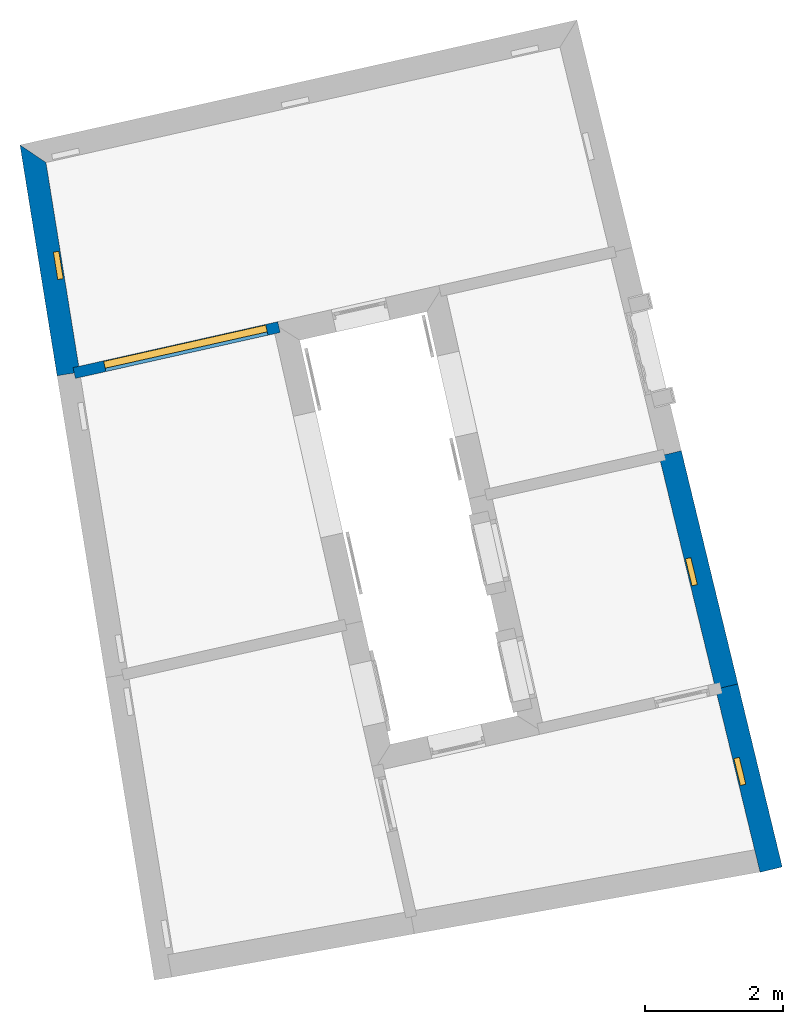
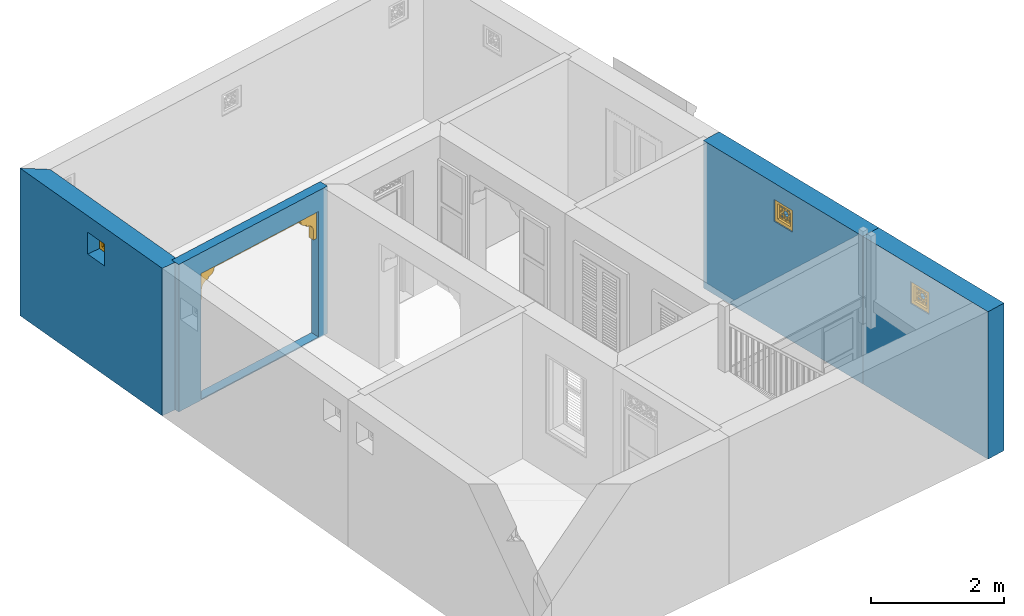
# One storey, part 10 of 13: 4 walls, 3 windows, 1 door, 4 openings.
"""IFC4 building model written with IfcOpenShell, lengths in metres."""

from ifc_helpers import new_model, si_unit, frame, origin, origin_with_axes, place, context, subcontext, project, spatial, polyline, outline, extrude, faceted_brep, source, transform, mapped, material, layer, layer_set, layer_usage, type_object, type_shapes, element, fill, save


model = new_model("IFC4")

# Units and contexts
model_context = context("Model", 3, world=origin_with_axes())
body_context = subcontext(model_context, "Body", "Model", "MODEL_VIEW")
ifc_project = project(units=[si_unit("PLANEANGLEUNIT", "RADIAN"), si_unit("MASSUNIT", "GRAM", prefix="KILO"), si_unit("FORCEUNIT", "NEWTON", prefix="KILO"), si_unit("LENGTHUNIT", "METRE"), si_unit("AREAUNIT", "SQUARE_METRE"), si_unit("VOLUMEUNIT", "CUBIC_METRE")], contexts=[model_context, model_context])

# Site, building, storey
site_placement = place(None, origin_with_axes())
site = spatial("IfcSite", under=ifc_project, at=site_placement, Name="Site plot-10", CompositionType="ELEMENT")
building_placement = place(None, origin_with_axes())
building = spatial("IfcBuilding", under=site, at=building_placement, Name="Building plot-10", CompositionType="ELEMENT")
storey_placement = place(None, origin_with_axes())
storey = spatial("IfcBuildingStorey", under=building, at=storey_placement, Name="plot-10 0", CompositionType="ELEMENT", Elevation=0.0)

# Wall, opening, window
ifc_material_1 = material(Name="Masonry")
ifc_layer_1 = layer(ifc_material_1, 0.33, ventilated=False)
ifc_layer_set_1 = layer_set([ifc_layer_1], Name="exterior_0.08_0.25")
ifc_layer_usage_1 = layer_usage(ifc_layer_set_1, "AXIS2", "POSITIVE", -0.25)
wall_type_1 = type_object("IfcWallType", Name="exterior_0.08_0.25", PredefinedType="SOLIDWALL", material=ifc_layer_set_1)
wall_1_placement = place(storey_placement, frame((-14.5759985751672, 9.56223174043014, 0.0), z_axis=(0.0, 0.0, 1.0), x_axis=(-0.235675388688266, 0.971831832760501, 0.0)))
wall_1 = element("IfcWall", 1, at=wall_1_placement, inside=storey, type_object=wall_type_1, material=ifc_layer_usage_1, Name="exterior", context=body_context, shape_type="SweptSolid", body=[
    extrude(outline(polyline([(-0.25, 0.0800000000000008), (-0.25, -0.249999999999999), (2.47135558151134, -0.25), (2.47135558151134, 0.0800000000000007), (-0.25, 0.0800000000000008)])), origin_with_axes(), (0.0, 0.0, 1.0), 2.7),
])
opening_1_placement = place(wall_1_placement, frame((1.03567779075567, 0.0, 2.0)))
opening_1 = element("IfcOpeningElement", 2, at=opening_1_placement, cuts=wall_1, Name="My Opening", ObjectType="Opening", context=body_context, shape_type="SweptSolid", body=[
    extrude(outline(polyline([(0.0, -0.27), (0.4, -0.270000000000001), (0.4, 1.1), (4.44089209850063e-16, 1.1), (0.0, -0.27)])), origin_with_axes(), (0.0, 0.0, 1.0), 0.4),
])
window_type = type_object("IfcWindowType", Name="barred_window", PartitioningType="DOUBLE_PANEL_HORIZONTAL", PredefinedType="NOTDEFINED")
shared_shape_1 = source(origin(), body_context, "Body", "Brep", [
    faceted_brep([(0.4, 0.25, 0.4), (0.0, 0.25, 0.4), (0.06, 0.25, 0.34), (0.34, 0.25, 0.34), (0.06, 0.33, 0.34), (0.34, 0.33, 0.34), (0.34, 0.25, 0.06), (0.4, 0.25, 0.0), (0.4, 0.33, 0.4), (0.0, 0.33, 0.4), (0.0, 0.25, 0.0), (0.06, 0.25, 0.06), (0.06, 0.33, 0.06), (0.34, 0.33, 0.06), (0.4, 0.33, 0.0), (0.0, 0.33, 0.0), (0.136152, 0.28, 0.08), (0.08, 0.28, 0.08), (0.06, 0.28, 0.06), (0.136152, 0.28, 0.06), (0.136152, 0.29, 0.08), (0.08, 0.29, 0.08), (0.06, 0.28, 0.136152), (0.08, 0.28, 0.136152), (0.06, 0.29, 0.06), (0.136152, 0.29, 0.06), (0.170294, 0.28, 0.08), (0.170294, 0.28, 0.06), (0.136152, 0.28, 0.136152), (0.136152, 0.29, 0.136152), (0.08, 0.29, 0.136152), (0.06, 0.29, 0.136152), (0.08, 0.28, 0.170294), (0.06, 0.28, 0.170294), (0.170294, 0.29, 0.06), (0.229706, 0.28, 0.08), (0.229706, 0.28, 0.06), (0.156152, 0.28, 0.094142), (0.156152, 0.28, 0.136152), (0.185858, 0.28, 0.123848), (0.185858, 0.29, 0.123848), (0.156152, 0.29, 0.094142), (0.156152, 0.29, 0.136152), (0.229706, 0.29, 0.08), (0.170294, 0.29, 0.08), (0.2, 0.28, 0.109706), (0.2, 0.29, 0.109706), (0.06, 0.29, 0.170294), (0.094142, 0.28, 0.156152), (0.08, 0.28, 0.229706), (0.06, 0.28, 0.229706), (0.229706, 0.29, 0.06), (0.263848, 0.28, 0.08), (0.263848, 0.28, 0.06), (0.156152, 0.28, 0.156152), (0.136152, 0.28, 0.156152), (0.173553, 0.28, 0.136152), (0.173553, 0.29, 0.136152), (0.156152, 0.29, 0.156152), (0.136152, 0.29, 0.156152), (0.094142, 0.29, 0.156152), (0.08, 0.29, 0.170294), (0.06, 0.29, 0.229706), (0.123848, 0.28, 0.185858), (0.109706, 0.28, 0.2), (0.08, 0.29, 0.229706), (0.08, 0.28, 0.263848), (0.06, 0.28, 0.263848), (0.263848, 0.29, 0.06), (0.2, 0.28, 0.13799), (0.214142, 0.28, 0.123848), (0.34, 0.28, 0.06), (0.32, 0.28, 0.08), (0.181838, 0.28, 0.156152), (0.136152, 0.28, 0.173553), (0.156152, 0.28, 0.181838), (0.181838, 0.29, 0.156152), (0.2, 0.29, 0.13799), (0.214142, 0.29, 0.123848), (0.136152, 0.29, 0.173553), (0.156152, 0.29, 0.181838), (0.243848, 0.28, 0.094142), (0.243848, 0.29, 0.094142), (0.263848, 0.28, 0.136152), (0.263848, 0.29, 0.08), (0.263848, 0.29, 0.136152), (0.32, 0.29, 0.08), (0.243848, 0.28, 0.136152), (0.243848, 0.29, 0.136152), (0.06, 0.29, 0.263848), (0.123848, 0.29, 0.185858), (0.13799, 0.28, 0.2), (0.123848, 0.28, 0.214142), (0.109706, 0.29, 0.2), (0.094142, 0.28, 0.243848), (0.08, 0.28, 0.32), (0.06, 0.28, 0.34), (0.34, 0.29, 0.06), (0.218162, 0.28, 0.156152), (0.226447, 0.28, 0.136152), (0.34, 0.28, 0.229706), (0.32, 0.28, 0.229706), (0.32, 0.28, 0.170294), (0.32, 0.28, 0.136152), (0.218162, 0.29, 0.156152), (0.226447, 0.29, 0.136152), (0.13799, 0.29, 0.2), (0.32, 0.29, 0.136152), (0.08, 0.29, 0.263848), (0.06, 0.29, 0.34), (0.136152, 0.28, 0.226447), (0.156152, 0.28, 0.218162), (0.094142, 0.29, 0.243848), (0.123848, 0.29, 0.214142), (0.136152, 0.28, 0.243848), (0.136152, 0.28, 0.263848), (0.08, 0.29, 0.32), (0.136152, 0.28, 0.34), (0.136152, 0.28, 0.32), (0.34, 0.29, 0.229706), (0.243848, 0.28, 0.156152), (0.263848, 0.28, 0.156152), (0.34, 0.28, 0.263848), (0.32, 0.28, 0.263848), (0.32, 0.29, 0.229706), (0.32, 0.29, 0.170294), (0.290294, 0.28, 0.2), (0.276152, 0.28, 0.185858), (0.305858, 0.28, 0.156152), (0.243848, 0.29, 0.156152), (0.263848, 0.29, 0.156152), (0.305858, 0.29, 0.156152), (0.276152, 0.29, 0.185858), (0.290294, 0.29, 0.2), (0.136152, 0.29, 0.34), (0.136152, 0.29, 0.226447), (0.156152, 0.29, 0.218162), (0.156152, 0.28, 0.243848), (0.136152, 0.29, 0.243848), (0.156152, 0.28, 0.263848), (0.136152, 0.29, 0.263848), (0.136152, 0.29, 0.32), (0.170294, 0.28, 0.32), (0.170294, 0.28, 0.34), (0.34, 0.29, 0.263848), (0.243848, 0.28, 0.181838), (0.263848, 0.28, 0.173553), (0.34, 0.28, 0.34), (0.32, 0.28, 0.32), (0.305858, 0.28, 0.243848), (0.276152, 0.28, 0.214142), (0.26201, 0.28, 0.2), (0.243848, 0.29, 0.181838), (0.263848, 0.29, 0.173553), (0.26201, 0.29, 0.2), (0.276152, 0.29, 0.214142), (0.32, 0.29, 0.263848), (0.170294, 0.29, 0.34), (0.156152, 0.29, 0.243848), (0.173553, 0.28, 0.263848), (0.181838, 0.28, 0.243848), (0.156152, 0.28, 0.305858), (0.229706, 0.28, 0.32), (0.229706, 0.28, 0.34), (0.34, 0.29, 0.34), (0.263848, 0.28, 0.34), (0.263848, 0.28, 0.32), (0.32, 0.29, 0.32), (0.263848, 0.28, 0.263848), (0.263848, 0.28, 0.243848), (0.305858, 0.29, 0.243848), (0.263848, 0.28, 0.226447), (0.243848, 0.28, 0.218162), (0.243848, 0.29, 0.218162), (0.263848, 0.29, 0.226447), (0.156152, 0.29, 0.263848), (0.170294, 0.29, 0.32), (0.229706, 0.29, 0.34), (0.181838, 0.29, 0.243848), (0.173553, 0.29, 0.263848), (0.185858, 0.28, 0.276152), (0.2, 0.28, 0.26201), (0.156152, 0.29, 0.305858), (0.229706, 0.29, 0.32), (0.263848, 0.29, 0.34), (0.263848, 0.29, 0.32), (0.263848, 0.29, 0.263848), (0.243848, 0.28, 0.243848), (0.243848, 0.28, 0.263848), (0.263848, 0.29, 0.243848), (0.243848, 0.29, 0.243848), (0.2, 0.29, 0.26201), (0.185858, 0.29, 0.276152), (0.214142, 0.28, 0.276152), (0.218162, 0.28, 0.243848), (0.226447, 0.28, 0.263848), (0.243848, 0.28, 0.305858), (0.2, 0.28, 0.290294), (0.2, 0.29, 0.290294), (0.243848, 0.29, 0.263848), (0.218162, 0.29, 0.243848), (0.214142, 0.29, 0.276152), (0.226447, 0.29, 0.263848), (0.243848, 0.29, 0.305858)], [[[0, 1, 2, 3]], [[3, 2, 4, 5]], [[3, 6, 7, 0]], [[1, 0, 8, 9]], [[1, 10, 11, 2]], [[2, 11, 12, 4]], [[9, 8, 5, 4]], [[6, 3, 5, 13]], [[6, 11, 10, 7]], [[0, 7, 14, 8]], [[10, 1, 9, 15]], [[11, 6, 13, 12]], [[4, 12, 15, 9]], [[8, 14, 13, 5]], [[7, 10, 15, 14]], [[12, 13, 14, 15]], [[16, 17, 18, 19]], [[17, 16, 20, 21]], [[22, 18, 17, 23]], [[19, 18, 24, 25]], [[26, 16, 19, 27]], [[16, 28, 29, 20]], [[21, 20, 25, 24]], [[23, 17, 21, 30]], [[18, 22, 31, 24]], [[23, 32, 33, 22]], [[27, 19, 25, 34]], [[35, 26, 27, 36]], [[28, 16, 37, 38]], [[37, 39, 40, 41]], [[38, 37, 41, 42]], [[20, 29, 42, 41]], [[26, 35, 43, 44]], [[45, 26, 44, 46]], [[20, 44, 34, 25]], [[28, 23, 30, 29]], [[24, 31, 30, 21]], [[22, 33, 47, 31]], [[48, 32, 23]], [[32, 49, 50, 33]], [[36, 27, 34, 51]], [[39, 37, 26, 45]], [[52, 35, 36, 53]], [[38, 54, 55, 28]], [[39, 56, 57, 40]], [[41, 40, 46, 44]], [[56, 38, 42, 57]], [[58, 42, 29, 59]], [[35, 45, 46, 43]], [[44, 43, 51, 34]], [[23, 28, 55, 48]], [[29, 30, 60, 59]], [[61, 30, 31, 47]], [[33, 50, 62, 47]], [[48, 63, 64, 32]], [[49, 32, 61, 65]], [[49, 66, 67, 50]], [[53, 36, 51, 68]], [[69, 39, 45, 70]], [[53, 71, 72, 52]], [[73, 54, 38, 56]], [[74, 55, 54, 75]], [[56, 39, 69, 73]], [[40, 57, 76, 77]], [[40, 77, 78, 46]], [[58, 76, 57, 42]], [[59, 79, 80, 58]], [[45, 35, 81, 70]], [[43, 46, 78, 82]], [[83, 52, 84, 85]], [[82, 84, 43]], [[52, 72, 86, 84]], [[43, 84, 68, 51]], [[44, 20, 41]], [[70, 81, 82, 78]], [[81, 87, 88, 82]], [[48, 55, 59, 60]], [[61, 60, 30]], [[65, 61, 47, 62]], [[50, 67, 89, 62]], [[63, 48, 60, 90]], [[63, 91, 92, 64]], [[32, 64, 93, 61]], [[64, 49, 65, 93]], [[94, 66, 49]], [[66, 95, 96, 67]], [[71, 53, 68, 97]], [[98, 69, 70, 99]], [[81, 52, 83, 87]], [[72, 71, 100]], [[100, 101, 102]], [[103, 72, 100]], [[100, 102, 103]], [[54, 73, 76, 58]], [[55, 74, 79, 59]], [[75, 54, 58, 80]], [[63, 74, 75, 91]], [[73, 69, 77, 76]], [[77, 104, 105, 78]], [[79, 90, 106, 80]], [[84, 82, 88, 85]], [[103, 83, 85, 107]], [[72, 103, 107, 86]], [[97, 68, 84, 86]], [[99, 70, 78, 105]], [[87, 99, 105, 88]], [[90, 60, 61, 93]], [[108, 65, 62, 89]], [[67, 96, 109, 89]], [[74, 63, 90, 79]], [[110, 92, 91, 111]], [[49, 64, 92, 94]], [[93, 65, 112, 113]], [[94, 114, 115, 66]], [[95, 66, 108, 116]], [[117, 96, 95, 118]], [[100, 71, 97, 119]], [[69, 98, 104, 77]], [[99, 87, 120, 98]], [[87, 83, 121, 120]], [[101, 100, 122, 123]], [[102, 101, 124, 125]], [[121, 83, 103]], [[103, 102, 126]], [[126, 127, 128]], [[128, 121, 103]], [[103, 126, 128]], [[91, 75, 80, 106]], [[88, 105, 104, 129]], [[106, 90, 93, 113]], [[85, 88, 129, 130]], [[107, 85, 130]], [[131, 132, 133]], [[107, 130, 131]], [[133, 125, 107]], [[107, 131, 133]], [[124, 119, 97]], [[97, 86, 107]], [[107, 125, 124]], [[97, 107, 124]], [[108, 112, 65]], [[116, 108, 89, 109]], [[96, 117, 134, 109]], [[92, 110, 135, 113]], [[111, 91, 106, 136]], [[114, 110, 111, 137]], [[94, 92, 113, 112]], [[114, 94, 112, 138]], [[114, 137, 139, 115]], [[66, 115, 140, 108]], [[118, 95, 116, 141]], [[118, 142, 143, 117]], [[122, 100, 119, 144]], [[98, 120, 129, 104]], [[145, 120, 121, 146]], [[122, 147, 148, 123]], [[123, 149, 101]], [[101, 126, 133, 124]], [[126, 102, 125, 133]], [[127, 126, 150, 151]], [[128, 127, 132, 131]], [[121, 128, 131, 130]], [[113, 135, 136, 106]], [[129, 152, 153, 130]], [[133, 132, 154, 155]], [[119, 124, 156, 144]], [[138, 112, 108, 140]], [[109, 134, 141, 116]], [[117, 143, 157, 134]], [[110, 114, 138, 135]], [[137, 111, 136, 158]], [[159, 139, 137, 160]], [[118, 115, 139, 161]], [[115, 118, 141, 140]], [[161, 142, 118]], [[162, 163, 143, 142]], [[147, 122, 144, 164]], [[120, 145, 152, 129]], [[146, 121, 130, 153]], [[146, 127, 151, 145]], [[147, 165, 166, 148]], [[123, 148, 167, 156]], [[149, 123, 168, 169]], [[149, 150, 126, 101]], [[155, 170, 124, 133]], [[151, 150, 171, 172]], [[127, 146, 153, 132]], [[135, 138, 158, 136]], [[132, 153, 152, 154]], [[155, 154, 173, 174]], [[170, 156, 124]], [[164, 144, 156, 167]], [[158, 138, 140, 175]], [[176, 141, 134, 157]], [[143, 163, 177, 157]], [[160, 137, 158, 178]], [[139, 159, 179, 175]], [[180, 159, 160, 181]], [[161, 139, 175, 182]], [[140, 141, 182, 175]], [[166, 165, 163, 162]], [[162, 142, 176, 183]], [[165, 147, 164, 184]], [[145, 151, 154, 152]], [[148, 166, 185, 167]], [[156, 186, 168, 123]], [[187, 169, 168, 188]], [[149, 169, 189, 170]], [[150, 149, 170, 155]], [[171, 150, 155, 174]], [[171, 169, 187, 172]], [[151, 172, 173, 154]], [[189, 174, 173, 190]], [[156, 170, 189, 186]], [[184, 164, 167, 185]], [[175, 179, 178, 158]], [[176, 182, 141]], [[177, 183, 176, 157]], [[163, 165, 184, 177]], [[181, 160, 178, 191]], [[159, 180, 192, 179]], [[180, 161, 182, 192]], [[193, 181, 194, 195]], [[196, 162, 197, 193]], [[180, 197, 142, 161]], [[197, 180, 181, 193]], [[142, 197, 198, 176]], [[162, 196, 166]], [[35, 52, 81]], [[197, 162, 183, 198]], [[185, 166, 168, 186]], [[196, 188, 168, 166]], [[187, 188, 195, 194]], [[169, 171, 174, 189]], [[172, 187, 190, 173]], [[189, 190, 199, 186]], [[184, 185, 183, 177]], [[179, 192, 191, 178]], [[176, 198, 192, 182]], [[194, 181, 191, 200]], [[191, 192, 198, 201]], [[26, 37, 16]], [[193, 195, 202, 201]], [[196, 193, 201, 203]], [[191, 201, 202, 200]], [[183, 203, 201, 198]], [[188, 196, 203, 199]], [[203, 183, 185]], [[199, 203, 185, 186]], [[195, 188, 199, 202]], [[187, 194, 200, 190]], [[199, 190, 200, 202]]]),
])
type_shapes(window_type, [shared_shape_1])
window_1_placement = place(storey_placement, frame((-14.557687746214, 10.6323687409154, 2.0), z_axis=(0.0, 0.0, 1.0), x_axis=(-0.0942701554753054, 0.388732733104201, 0.0)))
window_1 = element("IfcWindow", 3, at=window_1_placement, inside=storey, type_object=window_type, Name="circulation street window", OverallHeight=0.4, OverallWidth=0.4, context=body_context, shape_type="MappedRepresentation", body=[
    mapped(shared_shape_1, transform((0.0, 0.0, 0.0), scale=1.0)),
])
fill(opening_1, window_1)

wall_2_placement = place(storey_placement, frame((-15.1584362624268, 11.9639737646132, 0.0), z_axis=(0.0, 0.0, 1.0), x_axis=(-0.235675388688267, 0.971831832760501, 0.0)))
wall_2 = element("IfcWall", 4, at=wall_2_placement, inside=storey, type_object=wall_type_1, material=ifc_layer_usage_1, Name="exterior", context=body_context, shape_type="SweptSolid", body=[
    extrude(outline(polyline([(-3.68136349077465e-16, 0.0800000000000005), (-4.84292276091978e-16, -0.25), (3.46695434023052, -0.25), (3.46695434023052, 0.0799999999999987), (-3.68136349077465e-16, 0.0800000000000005)])), origin_with_axes(), (0.0, 0.0, 1.0), 2.7),
])
opening_2_placement = place(wall_2_placement, frame((1.53347717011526, 0.0, 2.0)))
opening_2 = element("IfcOpeningElement", 5, at=opening_2_placement, cuts=wall_2, Name="My Opening", ObjectType="Opening", context=body_context, shape_type="SweptSolid", body=[
    extrude(outline(polyline([(0.0, -0.27), (0.400000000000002, -0.270000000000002), (0.400000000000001, 1.1), (-2.22044604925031e-16, 1.1), (0.0, -0.27)])), origin_with_axes(), (0.0, 0.0, 1.0), 0.4),
])
window_2_placement = place(storey_placement, frame((-15.257444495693, 13.5178880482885, 2.0), z_axis=(0.0, 0.0, 1.0), x_axis=(-0.0942701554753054, 0.388732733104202, 0.0)))
window_2 = element("IfcWindow", 6, at=window_2_placement, inside=storey, type_object=window_type, Name="toilet street window", OverallHeight=0.4, OverallWidth=0.4, context=body_context, shape_type="MappedRepresentation", body=[
    mapped(shared_shape_1, transform((0.0, 0.0, 0.0), scale=1.0)),
])
fill(opening_2, window_2)

wall_3_placement = place(storey_placement, frame((-25.0032951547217, 19.6175288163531, 0.0), z_axis=(0.0, 0.0, 1.0), x_axis=(0.158841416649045, -0.987304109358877, 0.0)))
wall_3 = element("IfcWall", 7, at=wall_3_placement, inside=storey, type_object=wall_type_1, material=ifc_layer_usage_1, Name="exterior", context=body_context, shape_type="SweptSolid", body=[
    extrude(outline(polyline([(0.0752482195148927, 0.0800000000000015), (-0.235150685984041, -0.250000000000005), (3.14293236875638, -0.249999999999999), (3.14293236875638, 0.0799999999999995), (0.0752482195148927, 0.0800000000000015)])), origin_with_axes(), (0.0, 0.0, 1.0), 2.7),
])
opening_3_placement = place(wall_3_placement, frame((1.37146618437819, 0.0, 2.0)))
opening_3 = element("IfcOpeningElement", 8, at=opening_3_placement, cuts=wall_3, Name="My Opening", ObjectType="Opening", context=body_context, shape_type="SweptSolid", body=[
    extrude(outline(polyline([(0.0, -0.270000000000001), (0.4, -0.270000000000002), (0.399999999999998, 1.1), (-2.44249065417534e-15, 1.1), (0.0, -0.270000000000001)])), origin_with_axes(), (0.0, 0.0, 1.0), 0.4),
])
window_3_placement = place(storey_placement, frame((-25.0520216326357, 18.2205874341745, 2.0), z_axis=(0.0, 0.0, 1.0), x_axis=(0.0635365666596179, -0.394921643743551, 0.0)))
window_3 = element("IfcWindow", 9, at=window_3_placement, inside=storey, type_object=window_type, Name="living street window", OverallHeight=0.4, OverallWidth=0.4, context=body_context, shape_type="MappedRepresentation", body=[
    mapped(shared_shape_1, transform((0.0, 0.0, 0.0), scale=1.0)),
])
fill(opening_3, window_3)

# Wall, opening, door
ifc_material_2 = material(Name="Masonry")
ifc_layer_2 = layer(ifc_material_2, 0.16, ventilated=False)
ifc_layer_set_2 = layer_set([ifc_layer_2], Name="interior_0.08_0.08")
ifc_layer_usage_2 = layer_usage(ifc_layer_set_2, "AXIS2", "POSITIVE", -0.08)
wall_type_2 = type_object("IfcWallType", Name="interior_0.08_0.08", PredefinedType="SOLIDWALL", material=ifc_layer_set_2)
wall_4_placement = place(storey_placement, frame((-21.5459217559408, 17.1782132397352, 0.0), z_axis=(0.0, 0.0, 1.0), x_axis=(-0.975741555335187, -0.218925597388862, 0.0)))
wall_4 = element("IfcWall", 10, at=wall_4_placement, inside=storey, type_object=wall_type_2, material=ifc_layer_usage_2, Name="interior", context=body_context, shape_type="SweptSolid", body=[
    extrude(outline(polyline([(-1.22261841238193e-15, 0.0799999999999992), (1.23058480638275e-15, -0.0799999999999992), (3.03168964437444, -0.0799999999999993), (3.03168964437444, 0.0799999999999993), (-1.22261841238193e-15, 0.0799999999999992)])), origin_with_axes(), (0.0, 0.0, 1.0), 2.7),
])
opening_4_placement = place(wall_4_placement, frame((0.18, 0.0, 0.02)))
opening_4 = element("IfcOpeningElement", 11, at=opening_4_placement, cuts=wall_4, Name="My Opening", ObjectType="Opening", context=body_context, shape_type="SweptSolid", body=[
    extrude(outline(polyline([(0.0, -0.100000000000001), (2.4, -0.0999999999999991), (2.4, 1.1), (-1.69309011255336e-15, 1.1), (0.0, -0.100000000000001)])), origin_with_axes(), (0.0, 0.0, 1.0), 2.3),
])
door_type = type_object("IfcDoorType", Name="arch-2400x2300-thin", OperationType="SINGLE_SWING_LEFT", PredefinedType="NOTDEFINED")
shared_shape_2 = source(origin(), body_context, "Body", "Brep", [
    faceted_brep([(2.4, 0.03, 1.78), (2.4, 0.03, 1.95), (2.34, 0.03, 1.95), (2.34, 0.03, 1.78), (2.34, 0.13, 1.95), (2.34, 0.13, 1.78), (2.4, 0.03, 2.12), (2.329, 0.03, 2.004), (2.4, 0.13, 1.78), (2.4, 0.13, 1.95), (2.329, 0.13, 2.004), (2.299, 0.03, 2.049), (2.4, 0.13, 2.12), (2.299, 0.13, 2.049), (2.254, 0.03, 2.079), (2.4, 0.13, 2.29), (2.4, 0.03, 2.29), (2.254, 0.13, 2.079), (2.2, 0.03, 2.09), (2.2, 0.03, 2.12), (2.154, 0.03, 2.129), (2.08, 0.13, 2.29), (2.08, 0.03, 2.29), (2.2, 0.13, 2.12), (2.154, 0.13, 2.129), (2.2, 0.13, 2.09), (2.115, 0.03, 2.155), (2.089, 0.13, 2.194), (2.08, 0.13, 2.24), (2.08, 0.03, 2.24), (2.089, 0.03, 2.194), (2.115, 0.13, 2.155), (0.06, 0.03, 1.78), (0.06, 0.03, 1.95), (0.0, 0.03, 1.95), (0.0, 0.03, 1.78), (0.06, 0.13, 1.78), (0.06, 0.13, 1.95), (0.071, 0.03, 2.004), (0.0, 0.03, 2.12), (0.0, 0.13, 1.95), (0.0, 0.13, 1.78), (0.071, 0.13, 2.004), (0.101, 0.03, 2.049), (0.0, 0.13, 2.12), (0.101, 0.13, 2.049), (0.146, 0.03, 2.079), (0.0, 0.03, 2.29), (0.0, 0.13, 2.29), (0.146, 0.13, 2.079), (0.2, 0.03, 2.12), (0.2, 0.03, 2.09), (0.246, 0.03, 2.129), (0.32, 0.03, 2.29), (0.32, 0.13, 2.29), (0.246, 0.13, 2.129), (0.2, 0.13, 2.12), (0.2, 0.13, 2.09), (0.285, 0.03, 2.155), (0.32, 0.13, 2.24), (0.311, 0.13, 2.194), (0.311, 0.03, 2.194), (0.32, 0.03, 2.24), (0.285, 0.13, 2.155)], [[[0, 1, 2, 3]], [[4, 5, 3, 2]], [[1, 6, 7, 2]], [[1, 0, 8, 9]], [[5, 8, 0, 3]], [[5, 4, 9, 8]], [[10, 4, 2, 7]], [[6, 11, 7]], [[6, 1, 9, 12]], [[4, 10, 12, 9]], [[13, 10, 7, 11]], [[6, 14, 11]], [[12, 15, 16, 6]], [[12, 10, 13]], [[17, 13, 11, 14]], [[18, 14, 6, 19]], [[6, 16, 20, 19]], [[16, 15, 21, 22]], [[23, 24, 15, 12]], [[12, 13, 17]], [[25, 17, 14, 18]], [[23, 25, 18, 19]], [[24, 23, 19, 20]], [[16, 26, 20]], [[15, 27, 28, 21]], [[16, 22, 29, 30]], [[31, 15, 24]], [[23, 12, 17, 25]], [[31, 24, 20, 26]], [[16, 30, 26]], [[28, 27, 30, 29]], [[27, 15, 31]], [[27, 31, 26, 30]], [[32, 33, 34, 35]], [[33, 32, 36, 37]], [[33, 38, 39, 34]], [[35, 34, 40, 41]], [[32, 35, 41, 36]], [[41, 40, 37, 36]], [[38, 33, 37, 42]], [[38, 43, 39]], [[44, 40, 34, 39]], [[40, 44, 42, 37]], [[43, 38, 42, 45]], [[43, 46, 39]], [[39, 47, 48, 44]], [[45, 42, 44]], [[46, 43, 45, 49]], [[50, 39, 46, 51]], [[50, 52, 47, 39]], [[53, 54, 48, 47]], [[44, 48, 55, 56]], [[49, 45, 44]], [[51, 46, 49, 57]], [[50, 51, 57, 56]], [[52, 50, 56, 55]], [[52, 58, 47]], [[54, 59, 60, 48]], [[61, 62, 53, 47]], [[55, 48, 63]], [[57, 49, 44, 56]], [[58, 52, 55, 63]], [[58, 61, 47]], [[62, 61, 60, 59]], [[63, 48, 60]], [[61, 58, 63, 60]], [[62, 59, 28, 29]], [[59, 54, 21, 28]], [[53, 62, 29, 22]], [[54, 53, 22, 21]]]),
])
type_shapes(door_type, [shared_shape_2])
door_placement = place(storey_placement, frame((-21.74344779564, 17.2363807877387, 0.02), z_axis=(0.0, 0.0, 1.0), x_axis=(-2.34177973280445, -0.525421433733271, 0.0)))
door = element("IfcDoor", 12, at=door_placement, inside=storey, type_object=door_type, Name="kitchen living inside door", OverallHeight=2.3, OverallWidth=2.4, context=body_context, shape_type="MappedRepresentation", body=[
    mapped(shared_shape_2, transform((0.0, 0.0, 0.0), scale=1.0)),
])
fill(opening_4, door)

save(model, "model.ifc")
